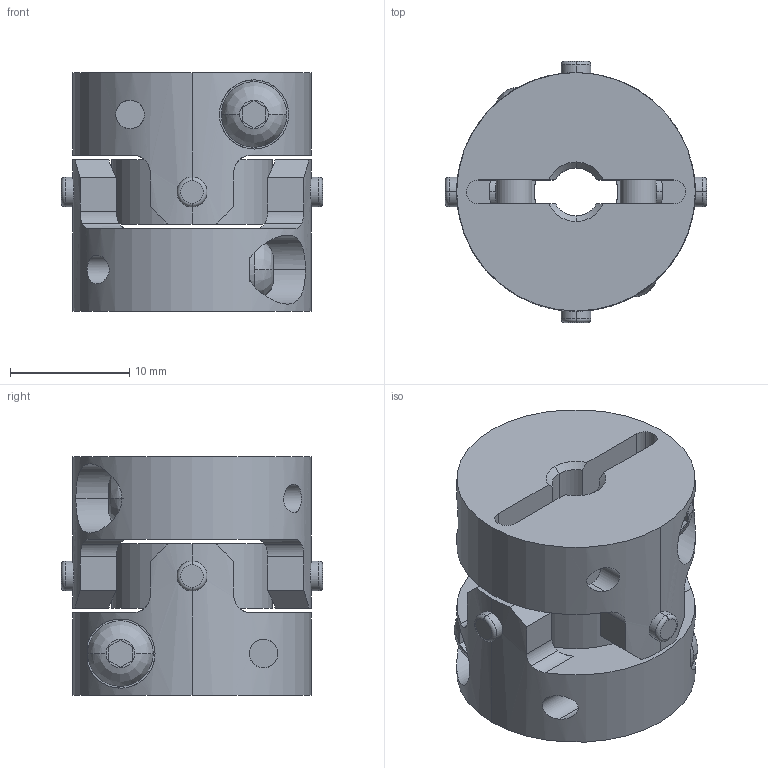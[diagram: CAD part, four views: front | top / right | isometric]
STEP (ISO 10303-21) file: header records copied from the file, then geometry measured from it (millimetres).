
FILE_DESCRIPTION((''),'2;1');
FILE_NAME('UA-20C-4×7.stp','2013-05-16T09:07:16',(''),(''),'AutoCAD STEP 2000i','AutoCAD 2000i',', , ');
FILE_SCHEMA(('CONFIG_CONTROL_DESIGN'));
Length unit declared in the file: millimetre
Products named in the file (7): UA-20C-4×7; 忣兜1; UA-2002-D07; BTN-M3; UA-2002-D04-1; UA-2002-D04; UA20-SEN
Assembly tree (8 placements, depth 3):
  UA-20C-4×7
    忣兜1
    UA-2002-D07
      BTN-M3
    UA-2002-D04-1
      BTN-M3
    UA-2002-D04
      BTN-M3
    UA20-SEN
Bounding box: 21.89 x 21.89 x 20 mm (x, y, z)
Volume: 4477.6 mm3; surface area: 3856.3 mm2
Topology: 1 solids, 1 shells, 206 faces, 554 edges, 364 vertices
Faces by surface type: cylinder 96, plane 78, cone 16, bspline 8, torus 8
Entity records: 8025 total; most frequent: CARTESIAN_POINT 2689, ORIENTED_EDGE 1108, DIRECTION 1068, EDGE_CURVE 554, AXIS2_PLACEMENT_3D 411, VERTEX_POINT 364, VECTOR 246, LINE 246
